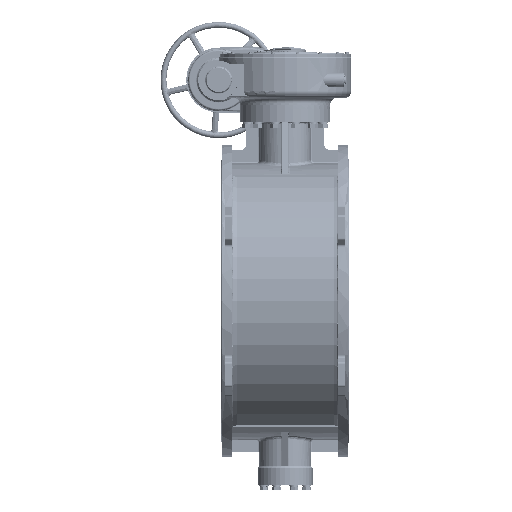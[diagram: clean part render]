
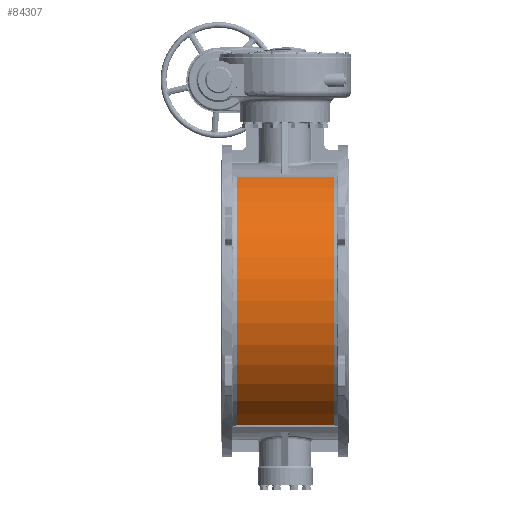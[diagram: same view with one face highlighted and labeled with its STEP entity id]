
A CAD part, front view. The second image highlights one B-rep face of the part: STEP entity #84307.
In plain terms, the highlighted cylindrical face has radius 845 mm (diameter 1690 mm), a partial arc.
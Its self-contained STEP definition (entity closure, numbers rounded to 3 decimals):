
#51201 = CIRCLE ( 'NONE', #54544, 845. ) ;
#51282 = CIRCLE ( 'NONE', #54547, 845. ) ;
#51284 = LINE ( 'NONE', #57823, #51293 ) ;
#51290 = LINE ( 'NONE', #57827, #51298 ) ;
#51293 = VECTOR ( 'NONE', #57819, 1000. ) ;
#51298 = VECTOR ( 'NONE', #57828, 1000. ) ;
#54544 = AXIS2_PLACEMENT_3D ( 'NONE', #57807, #57808, #57809 ) ;
#54547 = AXIS2_PLACEMENT_3D ( 'NONE', #57824, #57825, #57826 ) ;
#57807 = CARTESIAN_POINT ( 'NONE',  ( 0., -300., 0. ) ) ;
#57808 = DIRECTION ( 'NONE',  ( 0., 1., 0. ) ) ;
#57809 = DIRECTION ( 'NONE',  ( 0., 0., 1. ) ) ;
#57819 = DIRECTION ( 'NONE',  ( 0., 1., 0. ) ) ;
#57823 = CARTESIAN_POINT ( 'NONE',  ( -350., 1757.527, -769.107 ) ) ;
#57824 = CARTESIAN_POINT ( 'NONE',  ( 0., 300., 0. ) ) ;
#57825 = DIRECTION ( 'NONE',  ( 0., 1., 0. ) ) ;
#57826 = DIRECTION ( 'NONE',  ( 0., 0., 1. ) ) ;
#57827 = CARTESIAN_POINT ( 'NONE',  ( -350., 1757.527, 769.107 ) ) ;
#57828 = DIRECTION ( 'NONE',  ( 0., 1., 0. ) ) ;
#70455 = CARTESIAN_POINT ( 'NONE',  ( -350., -300., 769.107 ) ) ;
#70456 = CARTESIAN_POINT ( 'NONE',  ( -350., -300., -769.107 ) ) ;
#70458 = CARTESIAN_POINT ( 'NONE',  ( -350., 300., 769.107 ) ) ;
#70460 = CARTESIAN_POINT ( 'NONE',  ( -350., 300., -769.107 ) ) ;
#73642 = ORIENTED_EDGE ( 'NONE', *, *, #101898, .T. ) ;
#73657 = ORIENTED_EDGE ( 'NONE', *, *, #101891, .T. ) ;
#73672 = ORIENTED_EDGE ( 'NONE', *, *, #101897, .F. ) ;
#73687 = ORIENTED_EDGE ( 'NONE', *, *, #101896, .F. ) ;
#84307 = ADVANCED_FACE ( 'NONE', ( #96012 ), #96017, .T. ) ;
#96012 = FACE_OUTER_BOUND ( 'NONE', #107359, .T. ) ;
#96017 = CYLINDRICAL_SURFACE ( 'NONE', #98598, 845. ) ;
#97787 = DIRECTION ( 'NONE',  ( 0., 0., 1. ) ) ;
#97792 = DIRECTION ( 'NONE',  ( 0., 1., 0. ) ) ;
#97795 = CARTESIAN_POINT ( 'NONE',  ( 0., 1757.527, 0. ) ) ;
#98598 = AXIS2_PLACEMENT_3D ( 'NONE', #97795, #97792, #97787 ) ;
#101891 = EDGE_CURVE ( 'NONE', #106349, #106348, #51201, .T. ) ;
#101896 = EDGE_CURVE ( 'NONE', #106353, #106351, #51282, .T. ) ;
#101897 = EDGE_CURVE ( 'NONE', #106349, #106353, #51284, .T. ) ;
#101898 = EDGE_CURVE ( 'NONE', #106348, #106351, #51290, .T. ) ;
#106348 = VERTEX_POINT ( 'NONE', #70455 ) ;
#106349 = VERTEX_POINT ( 'NONE', #70456 ) ;
#106351 = VERTEX_POINT ( 'NONE', #70458 ) ;
#106353 = VERTEX_POINT ( 'NONE', #70460 ) ;
#107359 = EDGE_LOOP ( 'NONE', ( #73687, #73672, #73657, #73642 ) ) ;
